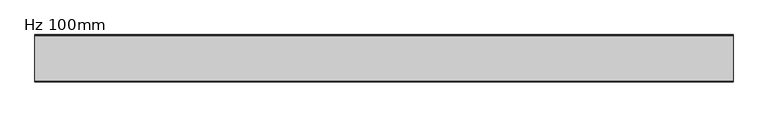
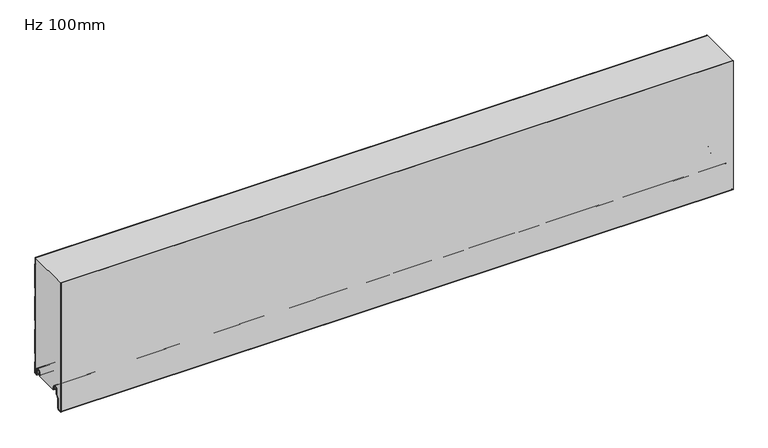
"""IFC4 building model written with IfcOpenShell, lengths in millimetres: plate geometry, KIP-MEX-KSS-1067-R19-CP-Hz-OP_SL : Hz 100mm."""

from ifc_helpers import new_model, si_unit, point, frame, frame_2d, origin, place, context, project, spatial, polyline, circle_curve, trimmed, segment, composite_curve, outline, extrude, source, transform, mapped, element, save
from ifc_brep_helpers import plane_surface, cylinder_surface, revolved_surface, advanced_brep


def hz_100mm_8f397e4b(model_context):
    return source(origin(), model_context, "Body", "SolidModel", [
        advanced_brep(
        [(-740.0, -17.0015159, 2.0313088), (-740.0, -18.0015191, 1.0313116), (-740.0, -19.0015105, 2.0313088), (-740.0, -19.0015105, 6.0315125), (-740.0, -18.0015159, 6.0315125), (-740.0, -18.0015159, 8.7237223), (-740.0, -14.7015202, 12.023718), (-740.0, -10.301529, 12.023718), (-740.0, -7.0015335, 8.7237225), (-740.0, -7.0015335, -1.6962564), (-740.0, -5.2315393, -3.4662506), (-740.0, -0.9999916, -3.4662506), (-740.0, -0.9999916, 21.034026), (-740.0, -2.2002307, 22.4196686), (-740.0, -2.2002307, 41.7948349), (-740.0, -1.0, 43.1804679), (-740.0, -1.0, 97.2338833), (-740.0, -2.2002307, 98.6195162), (-740.0, -2.2002307, 117.9946825), (-740.0, -1.0, 119.3803155), (-740.0, -1.0, 173.4337309), (-740.0, -2.2002307, 174.8193638), (-740.0, -2.2002307, 194.1945301), (-740.0, -1.0, 195.5801631), (-740.0, -1.0, 249.6335785), (-740.0, -2.2002307, 251.0192114), (-740.0, -2.2002307, 266.0), (-740.0, -1.2002307, 266.0), (-740.0, -1.2002307, 251.3920919), (-740.0, -0.3417885, 250.4010442), (-740.0, 0.0, 249.4844273), (-740.0, 0.0, 195.7293142), (-740.0, -0.3417885, 194.8126973), (-740.0, -1.2002307, 193.8216497), (-740.0, -1.2002307, 175.1922443), (-740.0, -0.3417885, 174.2011966), (-740.0, 0.0, 173.2845797), (-740.0, 0.0, 119.5294666), (-740.0, -0.3417885, 118.6128497), (-740.0, -1.2002307, 117.6218021), (-740.0, -1.2002307, 98.9923967), (-740.0, -0.3417885, 98.001349), (-740.0, 0.0, 97.0847321), (-740.0, 0.0, 43.329619), (-740.0, -0.3417885, 42.4130021), (-740.0, -1.2002307, 41.4219545), (-740.0, -1.2002307, 22.7925491), (-740.0, -0.3417885, 21.8015014), (-740.0, 0.0, 20.8847931), (-740.0, 8.4e-06, -3.0662545), (-740.0, -1.3999878, -4.4662506), (-740.0, -5.2315393, -4.4662506), (-740.0, -8.0015335, -1.6962564), (-740.0, -8.0015335, 8.7237225), (-740.0, -10.301529, 11.023718), (-740.0, -14.7015202, 11.023718), (-740.0, -17.0015159, 8.7237223), (740.0, -17.0015159, 2.0313088), (740.0, -17.0015159, 8.7237223), (740.0, -14.7015202, 11.023718), (740.0, -10.301529, 11.023718), (740.0, -8.0015335, 8.7237225), (740.0, -8.0015335, -1.6962564), (740.0, -5.2315393, -4.4662506), (740.0, -1.3999878, -4.4662506), (740.0, 8.4e-06, -3.0662545), (740.0, 8.4e-06, 20.8848845), (740.0, -0.3417885, 21.8015014), (740.0, -1.2002307, 22.7925491), (740.0, -1.2002307, 41.4219545), (740.0, -0.3417885, 42.4130021), (740.0, 0.0, 43.329619), (740.0, 0.0, 97.0847321), (740.0, -0.3417885, 98.001349), (740.0, -1.2002307, 98.9923967), (740.0, -1.2002307, 117.6218021), (740.0, -0.3417885, 118.6128497), (740.0, 0.0, 119.5294666), (740.0, 0.0, 173.2845797), (740.0, -0.3417885, 174.2011966), (740.0, -1.2002307, 175.1922443), (740.0, -1.2002307, 193.8216497), (740.0, -0.3417885, 194.8126973), (740.0, 0.0, 195.7293142), (740.0, 0.0, 249.4844273), (740.0, -0.3417885, 250.4010442), (740.0, -1.2002307, 251.3920919), (740.0, -1.2002307, 266.0), (740.0, -2.2002307, 266.0), (740.0, -2.2002307, 251.0192114), (740.0, -1.0, 249.6335785), (740.0, -1.0, 195.5801631), (740.0, -2.2002307, 194.1945301), (740.0, -2.2002307, 174.8193638), (740.0, -1.0, 173.4337309), (740.0, -1.0, 119.3803155), (740.0, -2.2002307, 117.9946825), (740.0, -2.2002307, 98.6195162), (740.0, -1.0, 97.2338833), (740.0, -1.0, 43.1804679), (740.0, -2.2002307, 41.7948349), (740.0, -2.2002307, 22.4196686), (740.0, -0.9999916, 21.034026), (740.0, -0.9999916, -3.4662506), (740.0, -5.2315393, -3.4662506), (740.0, -7.0015335, -1.6962564), (740.0, -7.0015335, 8.7237225), (740.0, -10.301529, 12.023718), (740.0, -14.7015202, 12.023718), (740.0, -18.0015159, 8.7237223), (740.0, -18.0015159, 6.0315125), (740.0, -19.0015105, 6.0315125), (740.0, -19.0015105, 2.0313088), (740.0, -18.0015192, 1.0313116)],
        [
            (0, 1, circle_curve(frame((-740.0, -18.0015132, 2.0313088), z_axis=(-1.0, 0.0, 0.0), x_axis=(0.0, 0.0, 1.0)), 0.9999973)),
            (1, 2, circle_curve(frame((-740.0, -18.0015133, 2.0313088), z_axis=(-1.0, 0.0, 0.0), x_axis=(0.0, 0.0, 1.0)), 0.9999972)),
            (2, 3),
            (3, 4),
            (4, 5),
            (5, 6, circle_curve(frame((-740.0, -14.7015202, 8.7237223), z_axis=(-1.0, 0.0, 0.0), x_axis=(0.0, 0.0, 1.0)), 3.2999957)),
            (6, 7),
            (7, 8, circle_curve(frame((-740.0, -10.301529, 8.7237225), z_axis=(-1.0, 0.0, 0.0), x_axis=(0.0, 0.0, 1.0)), 3.2999955)),
            (8, 9),
            (9, 10, circle_curve(frame((-740.0, -5.2315393, -1.6962564), z_axis=(1.0, 0.0, 0.0), x_axis=(0.0, 0.0, 1.0)), 1.7699942)),
            (10, 11),
            (11, 12),
            (12, 13),
            (13, 14),
            (14, 15),
            (15, 16),
            (16, 17),
            (17, 18),
            (18, 19),
            (19, 20),
            (20, 21),
            (21, 22),
            (22, 23),
            (23, 24),
            (24, 25),
            (25, 26),
            (26, 27),
            (27, 28),
            (28, 29),
            (29, 30, circle_curve(frame((-740.0, -1.3999972, 249.4844273), z_axis=(-1.0, 0.0, 0.0), x_axis=(0.0, 0.0, 1.0)), 1.3999972)),
            (30, 31),
            (31, 32, circle_curve(frame((-740.0, -1.3999972, 195.7293142), z_axis=(-1.0, 0.0, 0.0), x_axis=(0.0, 0.0, 1.0)), 1.3999972)),
            (32, 33),
            (33, 34),
            (34, 35),
            (35, 36, circle_curve(frame((-740.0, -1.3999972, 173.2845797), z_axis=(-1.0, 0.0, 0.0), x_axis=(0.0, 0.0, 1.0)), 1.3999972)),
            (36, 37),
            (37, 38, circle_curve(frame((-740.0, -1.3999972, 119.5294666), z_axis=(-1.0, 0.0, 0.0), x_axis=(0.0, 0.0, 1.0)), 1.3999972)),
            (38, 39),
            (39, 40),
            (40, 41),
            (41, 42, circle_curve(frame((-740.0, -1.3999972, 97.0847321), z_axis=(-1.0, 0.0, 0.0), x_axis=(0.0, 0.0, 1.0)), 1.3999972)),
            (42, 43),
            (43, 44, circle_curve(frame((-740.0, -1.3999972, 43.329619), z_axis=(-1.0, 0.0, 0.0), x_axis=(0.0, 0.0, 1.0)), 1.3999972)),
            (44, 45),
            (45, 46),
            (46, 47),
            (47, 48, circle_curve(frame((-740.0, -1.3999972, 20.8848845), z_axis=(-1.0, 0.0, 0.0), x_axis=(0.0, 0.0, 1.0)), 1.3999972)),
            (48, 49),
            (49, 50, circle_curve(frame((-740.0, -1.3999878, -3.0662545), z_axis=(-1.0, 0.0, 0.0), x_axis=(0.0, 0.0, 1.0)), 1.3999962)),
            (50, 51),
            (51, 52, circle_curve(frame((-740.0, -5.2315393, -1.6962564), z_axis=(-1.0, 0.0, 0.0), x_axis=(0.0, 0.0, 1.0)), 2.7699942)),
            (52, 53),
            (53, 54, circle_curve(frame((-740.0, -10.301529, 8.7237225), z_axis=(1.0, 0.0, 0.0), x_axis=(0.0, 0.0, 1.0)), 2.2999955)),
            (54, 55),
            (55, 56, circle_curve(frame((-740.0, -14.7015202, 8.7237223), z_axis=(1.0, 0.0, 0.0), x_axis=(0.0, 0.0, 1.0)), 2.2999957)),
            (56, 0),
            (57, 58),
            (58, 59, circle_curve(frame((740.0, -14.7015202, 8.7237223), z_axis=(-1.0, 0.0, 0.0), x_axis=(0.0, 0.0, 1.0)), 2.2999957)),
            (59, 60),
            (60, 61, circle_curve(frame((740.0, -10.301529, 8.7237225), z_axis=(-1.0, 0.0, 0.0), x_axis=(0.0, 0.0, 1.0)), 2.2999955)),
            (61, 62),
            (62, 63, circle_curve(frame((740.0, -5.2315393, -1.6962564), z_axis=(1.0, 0.0, 0.0), x_axis=(0.0, 0.0, 1.0)), 2.7699942)),
            (63, 64),
            (64, 65, circle_curve(frame((740.0, -1.3999878, -3.0662545), z_axis=(1.0, 0.0, 0.0), x_axis=(0.0, 0.0, 1.0)), 1.3999962)),
            (65, 66),
            (66, 67, circle_curve(frame((740.0, -1.3999972, 20.8848845), z_axis=(1.0, 0.0, 0.0), x_axis=(0.0, 0.0, 1.0)), 1.3999972)),
            (67, 68),
            (68, 69),
            (69, 70),
            (70, 71, circle_curve(frame((740.0, -1.3999972, 43.329619), z_axis=(1.0, 0.0, 0.0), x_axis=(0.0, 0.0, 1.0)), 1.3999972)),
            (71, 72),
            (72, 73, circle_curve(frame((740.0, -1.3999972, 97.0847321), z_axis=(1.0, 0.0, 0.0), x_axis=(0.0, 0.0, 1.0)), 1.3999972)),
            (73, 74),
            (74, 75),
            (75, 76),
            (76, 77, circle_curve(frame((740.0, -1.3999972, 119.5294666), z_axis=(1.0, 0.0, 0.0), x_axis=(0.0, 0.0, 1.0)), 1.3999972)),
            (77, 78),
            (78, 79, circle_curve(frame((740.0, -1.3999972, 173.2845797), z_axis=(1.0, 0.0, 0.0), x_axis=(0.0, 0.0, 1.0)), 1.3999972)),
            (79, 80),
            (80, 81),
            (81, 82),
            (82, 83, circle_curve(frame((740.0, -1.3999972, 195.7293142), z_axis=(1.0, 0.0, 0.0), x_axis=(0.0, 0.0, 1.0)), 1.3999972)),
            (83, 84),
            (84, 85, circle_curve(frame((740.0, -1.3999972, 249.4844273), z_axis=(1.0, 0.0, 0.0), x_axis=(0.0, 0.0, 1.0)), 1.3999972)),
            (85, 86),
            (86, 87),
            (87, 88),
            (88, 89),
            (89, 90),
            (90, 91),
            (91, 92),
            (92, 93),
            (93, 94),
            (94, 95),
            (95, 96),
            (96, 97),
            (97, 98),
            (98, 99),
            (99, 100),
            (100, 101),
            (101, 102),
            (102, 103),
            (103, 104),
            (104, 105, circle_curve(frame((740.0, -5.2315393, -1.6962564), z_axis=(-1.0, 0.0, 0.0), x_axis=(0.0, 0.0, 1.0)), 1.7699942)),
            (105, 106),
            (106, 107, circle_curve(frame((740.0, -10.301529, 8.7237225), z_axis=(1.0, 0.0, 0.0), x_axis=(0.0, 0.0, 1.0)), 3.2999955)),
            (107, 108),
            (108, 109, circle_curve(frame((740.0, -14.7015202, 8.7237223), z_axis=(1.0, 0.0, 0.0), x_axis=(0.0, 0.0, 1.0)), 3.2999957)),
            (109, 110),
            (110, 111),
            (111, 112),
            (112, 113, circle_curve(frame((740.0, -18.0015133, 2.0313088), z_axis=(1.0, 0.0, 0.0), x_axis=(0.0, 0.0, 1.0)), 0.9999972)),
            (113, 57, circle_curve(frame((740.0, -18.0015132, 2.0313088), z_axis=(1.0, 0.0, 0.0), x_axis=(0.0, 0.0, 1.0)), 0.9999973)),
            (56, 58),
            (57, 0),
            (55, 59),
            (54, 60),
            (53, 61),
            (52, 62),
            (51, 63),
            (50, 64),
            (49, 65),
            (48, 66),
            (47, 67),
            (46, 68),
            (45, 69),
            (44, 70),
            (43, 71),
            (42, 72),
            (41, 73),
            (40, 74),
            (39, 75),
            (38, 76),
            (37, 77),
            (36, 78),
            (35, 79),
            (34, 80),
            (33, 81),
            (32, 82),
            (31, 83),
            (30, 84),
            (29, 85),
            (28, 86),
            (27, 87),
            (88, 26),
            (25, 89),
            (24, 90),
            (23, 91),
            (22, 92),
            (21, 93),
            (20, 94),
            (19, 95),
            (18, 96),
            (17, 97),
            (16, 98),
            (15, 99),
            (14, 100),
            (13, 101),
            (12, 102),
            (11, 103),
            (10, 104),
            (9, 105),
            (8, 106),
            (7, 107),
            (6, 108),
            (5, 109),
            (4, 110),
            (3, 111),
            (2, 112),
            (1, 113),
        ],
        [
            plane_surface(frame((-740.0, 0.0, 533.4), z_axis=(-1.0, 0.0, 0.0), x_axis=(0.0, 1.0, 0.0))),
            plane_surface(frame((740.0, 0.0, 533.4), z_axis=(1.0, 0.0, 0.0), x_axis=(0.0, 1.0, 0.0))),
            plane_surface(frame((-740.0, -17.0015159, 2.0313088), z_axis=(0.0, 1.0, 0.0), x_axis=(1.0, 0.0, 0.0))),
            revolved_surface(polyline([(740.0, -14.7015202, 11.023718), (-740.0, -14.7015202, 11.023718)]), (-740.0, -14.7015202, 8.7237223), (1.0, 0.0, 0.0)),
            plane_surface(frame((-740.0, -14.7015202, 11.023718), z_axis=(0.0, 0.0, -1.0), x_axis=(1.0, 0.0, 0.0))),
            revolved_surface(polyline([(740.0, -10.301529, 11.023717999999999), (-740.0, -10.301529, 11.023717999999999)]), (-740.0, -10.301529, 8.7237225), (1.0, 0.0, 0.0)),
            plane_surface(frame((-740.0, -8.0015335, 8.7237225), z_axis=(0.0, -1.0, 0.0), x_axis=(1.0, 0.0, 0.0))),
            cylinder_surface(frame((-740.0, -5.2315393, -1.6962564), z_axis=(-1.0, 0.0, 0.0), x_axis=(0.0, 0.0, 1.0)), 2.7699942),
            plane_surface(frame((-740.0, -5.2315393, -4.4662506), z_axis=(0.0, 0.0, -1.0), x_axis=(1.0, 0.0, 0.0))),
            cylinder_surface(frame((-740.0, -1.3999878, -3.0662545), z_axis=(-1.0, 0.0, 0.0), x_axis=(0.0, 0.0, 1.0)), 1.3999962),
            plane_surface(frame((-740.0, 8.4e-06, -3.0662545), z_axis=(0.0, 1.0, 0.0), x_axis=(1.0, 0.0, 0.0))),
            cylinder_surface(frame((-740.0, -1.3999972, 20.8848845), z_axis=(-1.0, 0.0, 0.0), x_axis=(0.0, 0.0, 1.0)), 1.3999972),
            plane_surface(frame((-740.0, -0.3417885, 21.8015014), z_axis=(0.0, 0.755864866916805, 0.6547276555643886), x_axis=(1.0, 0.0, 0.0))),
            plane_surface(frame((-740.0, -1.2002307, 32.1072518), z_axis=(0.0, 1.0, 0.0), x_axis=(1.0, 0.0, 0.0))),
            plane_surface(frame((-740.0, -1.2002307, 41.4219545), z_axis=(0.0, 0.755864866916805, -0.6547276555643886), x_axis=(1.0, 0.0, 0.0))),
            cylinder_surface(frame((-740.0, -1.3999972, 43.329619), z_axis=(-1.0, 0.0, 0.0), x_axis=(0.0, 0.0, 1.0)), 1.3999972),
            plane_surface(frame((-740.0, 0.0, 43.329619), z_axis=(0.0, 1.0, 0.0), x_axis=(1.0, 0.0, 0.0))),
            cylinder_surface(frame((-740.0, -1.3999972, 97.0847321), z_axis=(-1.0, 0.0, 0.0), x_axis=(0.0, 0.0, 1.0)), 1.3999972),
            plane_surface(frame((-740.0, -0.3417885, 98.001349), z_axis=(0.0, 0.755864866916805, 0.6547276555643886), x_axis=(1.0, 0.0, 0.0))),
            plane_surface(frame((-740.0, -1.2002307, 108.3070994), z_axis=(0.0, 1.0, 0.0), x_axis=(1.0, 0.0, 0.0))),
            plane_surface(frame((-740.0, -1.2002307, 117.6218021), z_axis=(0.0, 0.755864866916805, -0.6547276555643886), x_axis=(1.0, 0.0, 0.0))),
            cylinder_surface(frame((-740.0, -1.3999972, 119.5294666), z_axis=(-1.0, 0.0, 0.0), x_axis=(0.0, 0.0, 1.0)), 1.3999972),
            plane_surface(frame((-740.0, 0.0, 119.5294666), z_axis=(0.0, 1.0, 0.0), x_axis=(1.0, 0.0, 0.0))),
            cylinder_surface(frame((-740.0, -1.3999972, 173.2845797), z_axis=(-1.0, 0.0, 0.0), x_axis=(0.0, 0.0, 1.0)), 1.3999972),
            plane_surface(frame((-740.0, -0.3417885, 174.2011966), z_axis=(0.0, 0.755864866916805, 0.6547276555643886), x_axis=(1.0, 0.0, 0.0))),
            plane_surface(frame((-740.0, -1.2002307, 184.506947), z_axis=(0.0, 1.0, 0.0), x_axis=(1.0, 0.0, 0.0))),
            plane_surface(frame((-740.0, -1.2002307, 193.8216497), z_axis=(0.0, 0.755864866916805, -0.6547276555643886), x_axis=(1.0, 0.0, 0.0))),
            cylinder_surface(frame((-740.0, -1.3999972, 195.7293142), z_axis=(-1.0, 0.0, 0.0), x_axis=(0.0, 0.0, 1.0)), 1.3999972),
            plane_surface(frame((-740.0, 0.0, 195.7293142), z_axis=(0.0, 1.0, 0.0), x_axis=(1.0, 0.0, 0.0))),
            cylinder_surface(frame((-740.0, -1.3999972, 249.4844273), z_axis=(-1.0, 0.0, 0.0), x_axis=(0.0, 0.0, 1.0)), 1.3999972),
            plane_surface(frame((-740.0, -0.3417885, 250.4010442), z_axis=(0.0, 0.755864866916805, 0.6547276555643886), x_axis=(1.0, 0.0, 0.0))),
            plane_surface(frame((-740.0, -1.2002307, 260.7067946), z_axis=(0.0, 1.0, 0.0), x_axis=(1.0, 0.0, 0.0))),
            plane_surface(frame((-740.0, -2.2002307, 270.3943777), z_axis=(0.0, -1.0, 0.0), x_axis=(1.0, 0.0, 0.0))),
            plane_surface(frame((-740.0, -2.2002307, 251.0192114), z_axis=(0.0, -0.755864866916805, -0.6547276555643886), x_axis=(1.0, 0.0, 0.0))),
            plane_surface(frame((-740.0, -1.0, 249.6335785), z_axis=(0.0, -1.0, 0.0), x_axis=(1.0, 0.0, 0.0))),
            plane_surface(frame((-740.0, -1.0, 195.5801631), z_axis=(0.0, -0.755864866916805, 0.6547276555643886), x_axis=(1.0, 0.0, 0.0))),
            plane_surface(frame((-740.0, -2.2002307, 194.1945301), z_axis=(0.0, -1.0, 0.0), x_axis=(1.0, 0.0, 0.0))),
            plane_surface(frame((-740.0, -2.2002307, 174.8193638), z_axis=(0.0, -0.755864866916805, -0.6547276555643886), x_axis=(1.0, 0.0, 0.0))),
            plane_surface(frame((-740.0, -1.0, 173.4337309), z_axis=(0.0, -1.0, 0.0), x_axis=(1.0, 0.0, 0.0))),
            plane_surface(frame((-740.0, -1.0, 119.3803155), z_axis=(0.0, -0.755864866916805, 0.6547276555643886), x_axis=(1.0, 0.0, 0.0))),
            plane_surface(frame((-740.0, -2.2002307, 117.9946825), z_axis=(0.0, -1.0, 0.0), x_axis=(1.0, 0.0, 0.0))),
            plane_surface(frame((-740.0, -2.2002307, 98.6195162), z_axis=(0.0, -0.755864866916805, -0.6547276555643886), x_axis=(1.0, 0.0, 0.0))),
            plane_surface(frame((-740.0, -1.0, 97.2338833), z_axis=(0.0, -1.0, 0.0), x_axis=(1.0, 0.0, 0.0))),
            plane_surface(frame((-740.0, -1.0, 43.1804679), z_axis=(0.0, -0.755864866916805, 0.6547276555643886), x_axis=(1.0, 0.0, 0.0))),
            plane_surface(frame((-740.0, -2.2002307, 41.7948349), z_axis=(0.0, -1.0, 0.0), x_axis=(1.0, 0.0, 0.0))),
            plane_surface(frame((-740.0, -2.2002307, 22.4196686), z_axis=(0.0, -0.755864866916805, -0.6547276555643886), x_axis=(1.0, 0.0, 0.0))),
            plane_surface(frame((-740.0, -0.9999916, 21.034026), z_axis=(0.0, -1.0, 0.0), x_axis=(1.0, 0.0, 0.0))),
            plane_surface(frame((-740.0, -0.9999916, -3.4662506), z_axis=(0.0, 0.0, 1.0), x_axis=(1.0, 0.0, 0.0))),
            revolved_surface(polyline([(740.0, -5.2315393, 0.07373779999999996), (-740.0, -5.2315393, 0.07373779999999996)]), (-740.0, -5.2315393, -1.6962564), (1.0, 0.0, 0.0)),
            plane_surface(frame((-740.0, -7.0015335, -1.6962564), z_axis=(0.0, 1.0, 0.0), x_axis=(1.0, 0.0, 0.0))),
            cylinder_surface(frame((-740.0, -10.301529, 8.7237225), z_axis=(-1.0, 0.0, 0.0), x_axis=(0.0, 0.0, 1.0)), 3.2999955),
            plane_surface(frame((-740.0, -10.301529, 12.023718), z_axis=(0.0, 0.0, 1.0), x_axis=(1.0, 0.0, 0.0))),
            cylinder_surface(frame((-740.0, -14.7015202, 8.7237223), z_axis=(-1.0, 0.0, 0.0), x_axis=(0.0, 0.0, 1.0)), 3.2999957),
            plane_surface(frame((-740.0, -18.0015159, 8.7237223), z_axis=(0.0, -1.0, 0.0), x_axis=(1.0, 0.0, 0.0))),
            plane_surface(frame((-740.0, -18.0015159, 6.0315125), z_axis=(0.0, 0.0, 1.0), x_axis=(1.0, 0.0, 0.0))),
            plane_surface(frame((-740.0, -19.0015105, 6.0315125), z_axis=(0.0, -1.0, 0.0), x_axis=(1.0, 0.0, 0.0))),
            cylinder_surface(frame((-740.0, -18.0015133, 2.0313088), z_axis=(-1.0, 0.0, 0.0), x_axis=(0.0, 0.0, 1.0)), 0.9999972),
            cylinder_surface(frame((-740.0, -18.0015132, 2.0313088), z_axis=(-1.0, 0.0, 0.0), x_axis=(0.0, 0.0, 1.0)), 0.9999973),
            plane_surface(frame((740.0, 10.0, 266.0), z_axis=(0.0, 0.0, 1.0), x_axis=(-1.0, 0.0, 0.0))),
        ],
        [
            (0, [[1, 2, 3, 4, 5, 6, 7, 8, 9, 10, 11, 12, 13, 14, 15, 16, 17, 18, 19, 20, 21, 22, 23, 24, 25, 26, 27, 28, 29, 30, 31, 32, 33, 34, 35, 36, 37, 38, 39, 40, 41, 42, 43, 44, 45, 46, 47, 48, 49, 50, 51, 52, 53, 54, 55, 56, 57]]),
            (1, [[58, 59, 60, 61, 62, 63, 64, 65, 66, 67, 68, 69, 70, 71, 72, 73, 74, 75, 76, 77, 78, 79, 80, 81, 82, 83, 84, 85, 86, 87, 88, 89, 90, 91, 92, 93, 94, 95, 96, 97, 98, 99, 100, 101, 102, 103, 104, 105, 106, 107, 108, 109, 110, 111, 112, 113, 114]]),
            (2, [[115, -58, 116, -57]]),
            (3, [[117, -59, -115, -56]]),
            (4, [[118, -60, -117, -55]]),
            (5, [[119, -61, -118, -54]]),
            (6, [[120, -62, -119, -53]]),
            (7, [[121, -63, -120, -52]]),
            (8, [[122, -64, -121, -51]]),
            (9, [[123, -65, -122, -50]]),
            (10, [[124, -66, -123, -49]]),
            (11, [[125, -67, -124, -48]]),
            (12, [[126, -68, -125, -47]]),
            (13, [[127, -69, -126, -46]]),
            (14, [[128, -70, -127, -45]]),
            (15, [[129, -71, -128, -44]]),
            (16, [[130, -72, -129, -43]]),
            (17, [[131, -73, -130, -42]]),
            (18, [[132, -74, -131, -41]]),
            (19, [[133, -75, -132, -40]]),
            (20, [[134, -76, -133, -39]]),
            (21, [[135, -77, -134, -38]]),
            (22, [[136, -78, -135, -37]]),
            (23, [[137, -79, -136, -36]]),
            (24, [[138, -80, -137, -35]]),
            (25, [[139, -81, -138, -34]]),
            (26, [[140, -82, -139, -33]]),
            (27, [[141, -83, -140, -32]]),
            (28, [[142, -84, -141, -31]]),
            (29, [[143, -85, -142, -30]]),
            (30, [[144, -86, -143, -29]]),
            (31, [[-28, 145, -87, -144]]),
            (32, [[-89, 146, -26, 147]]),
            (33, [[148, -90, -147, -25]]),
            (34, [[149, -91, -148, -24]]),
            (35, [[150, -92, -149, -23]]),
            (36, [[151, -93, -150, -22]]),
            (37, [[152, -94, -151, -21]]),
            (38, [[153, -95, -152, -20]]),
            (39, [[154, -96, -153, -19]]),
            (40, [[155, -97, -154, -18]]),
            (41, [[156, -98, -155, -17]]),
            (42, [[157, -99, -156, -16]]),
            (43, [[158, -100, -157, -15]]),
            (44, [[159, -101, -158, -14]]),
            (45, [[160, -102, -159, -13]]),
            (46, [[161, -103, -160, -12]]),
            (47, [[162, -104, -161, -11]]),
            (48, [[163, -105, -162, -10]]),
            (49, [[164, -106, -163, -9]]),
            (50, [[165, -107, -164, -8]]),
            (51, [[166, -108, -165, -7]]),
            (52, [[167, -109, -166, -6]]),
            (53, [[168, -110, -167, -5]]),
            (54, [[169, -111, -168, -4]]),
            (55, [[170, -112, -169, -3]]),
            (56, [[171, -113, -170, -2]]),
            (57, [[-116, -114, -171, -1]]),
            (58, [[-146, -88, -145, -27]]),
        ],
    ),
        extrude(outline(composite_curve([segment(trimmed(circle_curve(frame_2d((-96.4297607, -32.4521176)), 3.5702393), [point((-96.1184903, -36.008762))], [point((-100.0, -32.4521176))], False, "CARTESIAN"), True, "CONTINUOUS"), segment(polyline([(-100.0, -32.4521176), (-100.0, 266.0), (-98.9993606, 266.0), (-98.9993606, -32.509446)]), True, "CONTINUOUS"), segment(trimmed(circle_curve(frame_2d((-96.4297607, -32.4521176)), 2.5702393), [point((-98.9993606, -32.509446))], [point((-96.2056751, -35.0125699))], True, "CARTESIAN"), True, "CONTINUOUS"), segment(polyline([(-96.2056751, -35.0125699), (-91.2238542, -34.5765709)]), True, "CONTINUOUS"), segment(trimmed(circle_curve(frame_2d((-91.7052448, -31.9198392)), 2.6999926), [point((-91.2238542, -34.5765709))], [point((-89.0052522, -31.9198392))], True, "CARTESIAN"), True, "CONTINUOUS"), segment(polyline([(-89.0052522, -31.9198392), (-89.0052522, -9.8247096), (-83.5031811, -4.3226385)]), True, "CONTINUOUS"), segment(trimmed(circle_curve(frame_2d((-84.7052588, -3.1205608)), 1.6999946), [point((-83.5031811, -4.3226385))], [point((-83.0052642, -3.1205608))], True, "CARTESIAN"), True, "CONTINUOUS"), segment(polyline([(-83.0052642, -3.1205608), (-83.0052642, 8.6903283)]), True, "CONTINUOUS"), segment(trimmed(circle_curve(frame_2d((-79.6552689, 8.6903283)), 3.3499953), [point((-83.0052642, 8.6903283))], [point((-79.6552689, 12.0403236))], False, "CARTESIAN"), True, "CONTINUOUS"), segment(polyline([(-79.6552689, 12.0403236), (-75.2552777, 12.0403236)]), True, "CONTINUOUS"), segment(trimmed(circle_curve(frame_2d((-75.2552777, 8.6903283)), 3.3499953), [point((-75.2552777, 12.0403236))], [point((-71.9052824, 8.6903283))], False, "CARTESIAN"), True, "CONTINUOUS"), segment(polyline([(-71.9052824, 8.6903283), (-71.9052824, 5.9912173), (-70.5068035, 5.9912173), (-70.5068035, 2.2328239)]), True, "CONTINUOUS"), segment(trimmed(circle_curve(frame_2d((-71.7068002, 2.2313092)), 1.1999976), [point((-70.5068035, 2.2328239))], [point((-71.6762782, 1.0316999))], False, "CARTESIAN"), True, "CONTINUOUS"), segment(trimmed(circle_curve(frame_2d((-71.7068002, 2.2313092)), 1.1999976), [point((-71.6762782, 1.0316999))], [point((-72.9052824, 2.1710221))], False, "CARTESIAN"), True, "CONTINUOUS"), segment(polyline([(-72.9052824, 2.1710221), (-72.9052824, 8.6903283)]), True, "CONTINUOUS"), segment(trimmed(circle_curve(frame_2d((-75.2552777, 8.6903283)), 2.3499953), [point((-72.9052824, 8.6903283))], [point((-75.2552777, 11.0403236))], True, "CARTESIAN"), True, "CONTINUOUS"), segment(polyline([(-75.2552777, 11.0403236), (-79.6552689, 11.0403236)]), True, "CONTINUOUS"), segment(trimmed(circle_curve(frame_2d((-79.6552689, 8.6903283)), 2.3499953), [point((-79.6552689, 11.0403236))], [point((-82.0052642, 8.6903283))], True, "CARTESIAN"), True, "CONTINUOUS"), segment(polyline([(-82.0052642, 8.6903283), (-82.0052642, -3.1205608)]), True, "CONTINUOUS"), segment(trimmed(circle_curve(frame_2d((-84.7052588, -3.1205608)), 2.6999946), [point((-82.0052642, -3.1205608))], [point((-82.7960743, -5.0297453))], False, "CARTESIAN"), True, "CONTINUOUS"), segment(polyline([(-82.7960743, -5.0297453), (-87.6244918, -9.8581627)]), True, "CONTINUOUS"), segment(trimmed(circle_curve(frame_2d((-86.7052548, -10.7773997)), 1.2999974), [point((-87.6244918, -9.8581627))], [point((-88.0052522, -10.7773997))], True, "CARTESIAN"), True, "CONTINUOUS"), segment(polyline([(-88.0052522, -10.7773997), (-88.0052522, -31.9198392)]), True, "CONTINUOUS"), segment(trimmed(circle_curve(frame_2d((-91.7052448, -31.9198392)), 3.6999926), [point((-88.0052522, -31.9198392))], [point((-91.0944437, -35.5690675))], False, "CARTESIAN"), True, "CONTINUOUS"), segment(polyline([(-91.0944437, -35.5690675), (-96.1184903, -36.008762)]), True, "CONTINUOUS")], self_intersect=False)), frame((-740.0, 0.0, 0.0), z_axis=(1.0, 0.0, 0.0), x_axis=(0.0, 1.0, 0.0)), (0.0, 0.0, 1.0), 1480.0),
        advanced_brep(
        [(-740.0, -71.670875, 1.0316999), (-740.0, -70.5014003, 2.2328239), (-740.0, -70.5014003, 5.9912173), (-740.0, -71.8998791, 5.9912173), (-740.0, -71.8998791, 8.6903283), (-740.0, -75.2498744, 12.0403236), (-740.0, -79.6498656, 12.0403236), (-740.0, -82.9998609, 8.6903283), (-740.0, -82.9998609, -3.1205608), (-740.0, -83.4977778, -4.3226385), (-740.0, -88.9998489, -9.8247096), (-740.0, -88.9998489, -31.9198392), (-740.0, -91.2184509, -34.5765709), (-740.0, -96.2002718, -35.0125699), (-740.0, -98.9945967, -32.4521176), (-740.0, -99.0, 266.0), (-740.0, -2.2002307, 266.0), (-740.0, -2.2002307, 251.0192115), (-740.0, -1.0, 249.6335785), (-740.0, -1.0, 195.5801631), (-740.0, -2.2002307, 194.1945302), (-740.0, -2.2002307, 174.8193639), (-740.0, -1.0, 173.4337309), (-740.0, -1.0, 119.3803155), (-740.0, -2.2002307, 117.9946826), (-740.0, -2.2002307, 98.6195163), (-740.0, -1.0, 97.2338833), (-740.0, -1.0, 43.1804679), (-740.0, -2.2002307, 41.794835), (-740.0, -2.2002307, 22.4196687), (-740.0, -0.9999916, 21.034026), (-740.0, -0.9999916, -3.4662506), (-740.0, -5.2315389, -3.4662506), (-740.0, -7.0015331, -1.6962564), (-740.0, -7.0015331, 8.7237222), (-740.0, -10.301529, 12.023718), (-740.0, -14.7015202, 12.023718), (-740.0, -18.0015159, 8.7237223), (-740.0, -18.0015159, 6.0315125), (-740.0, -19.0015105, 6.0315125), (-740.0, -19.0015105, 2.0313089), (-740.0, -18.0015192, 1.0313117), (-740.0, -19.0328308, 0.0), (-740.0, -70.6391751, 0.0), (740.0, -71.670875, 1.0316999), (740.0, -70.6391751, 0.0), (740.0, -19.0328308, 0.0), (740.0, -18.0015192, 1.0313117), (740.0, -19.0015105, 2.0313089), (740.0, -19.0015105, 6.0315125), (740.0, -18.0015159, 6.0315125), (740.0, -18.0015159, 8.7237223), (740.0, -14.7015202, 12.023718), (740.0, -10.301529, 12.023718), (740.0, -7.0015331, 8.7237222), (740.0, -7.0015331, -1.6962564), (740.0, -5.2315389, -3.4662506), (740.0, -0.9999916, -3.4662506), (740.0, -0.9999916, 21.034026), (740.0, -2.2002307, 22.4196687), (740.0, -2.2002307, 41.794835), (740.0, -1.0, 43.1804679), (740.0, -1.0, 97.2338833), (740.0, -2.2002307, 98.6195163), (740.0, -2.2002307, 117.9946826), (740.0, -1.0, 119.3803155), (740.0, -1.0, 173.4337309), (740.0, -2.2002307, 174.8193639), (740.0, -2.2002307, 194.1945302), (740.0, -1.0, 195.5801631), (740.0, -1.0, 249.6335785), (740.0, -2.2002307, 251.0192115), (740.0, -2.2002307, 266.0), (740.0, -99.0, 266.0), (740.0, -99.0, -32.4521176), (740.0, -96.2002718, -35.0125699), (740.0, -91.2184509, -34.5765709), (740.0, -88.9998489, -31.9198392), (740.0, -88.9998489, -9.8247096), (740.0, -83.4977778, -4.3226385), (740.0, -82.9998609, -3.1205608), (740.0, -82.9998609, 8.6903283), (740.0, -79.6498656, 12.0403236), (740.0, -75.2498744, 12.0403236), (740.0, -71.8998791, 8.6903283), (740.0, -71.8998791, 5.9912173), (740.0, -70.5014003, 5.9912173), (740.0, -70.5014003, 2.2328239)],
        [
            (0, 1, circle_curve(frame((-740.0, -71.7013969, 2.2313092), z_axis=(1.0, 0.0, 0.0), x_axis=(0.0, 0.0, -1.0)), 1.1999976)),
            (1, 2),
            (2, 3),
            (3, 4),
            (4, 5, circle_curve(frame((-740.0, -75.2498744, 8.6903283), z_axis=(1.0, 0.0, 0.0), x_axis=(0.0, 0.0, -1.0)), 3.3499953)),
            (5, 6),
            (6, 7, circle_curve(frame((-740.0, -79.6498656, 8.6903283), z_axis=(1.0, 0.0, 0.0), x_axis=(0.0, 0.0, -1.0)), 3.3499953)),
            (7, 8),
            (8, 9, circle_curve(frame((-740.0, -84.6998555, -3.1205608), z_axis=(-1.0, 0.0, 0.0), x_axis=(0.0, 0.0, -1.0)), 1.6999946)),
            (9, 10),
            (10, 11),
            (11, 12, circle_curve(frame((-740.0, -91.6998415, -31.9198392), z_axis=(-1.0, 0.0, 0.0), x_axis=(0.0, 0.0, -1.0)), 2.6999926)),
            (12, 13),
            (13, 14, circle_curve(frame((-740.0, -96.4243575, -32.4521176), z_axis=(-1.0, 0.0, 0.0), x_axis=(0.0, 0.0, -1.0)), 2.5702393)),
            (14, 15),
            (15, 16),
            (16, 17),
            (17, 18),
            (18, 19),
            (19, 20),
            (20, 21),
            (21, 22),
            (22, 23),
            (23, 24),
            (24, 25),
            (25, 26),
            (26, 27),
            (27, 28),
            (28, 29),
            (29, 30),
            (30, 31),
            (31, 32),
            (32, 33, circle_curve(frame((-740.0, -5.2315389, -1.6962564), z_axis=(-1.0, 0.0, 0.0), x_axis=(0.0, 0.0, -1.0)), 1.7699942)),
            (33, 34),
            (34, 35, circle_curve(frame((-740.0, -10.301529, 8.7237222), z_axis=(1.0, 0.0, 0.0), x_axis=(0.0, 0.0, -1.0)), 3.2999959)),
            (35, 36),
            (36, 37, circle_curve(frame((-740.0, -14.7015202, 8.7237223), z_axis=(1.0, 0.0, 0.0), x_axis=(0.0, 0.0, -1.0)), 3.2999957)),
            (37, 38),
            (38, 39),
            (39, 40),
            (40, 41, circle_curve(frame((-740.0, -18.0015133, 2.0313089), z_axis=(1.0, 0.0, 0.0), x_axis=(0.0, 0.0, -1.0)), 0.9999972)),
            (41, 42),
            (42, 43),
            (43, 0),
            (44, 45),
            (45, 46),
            (46, 47),
            (47, 48, circle_curve(frame((740.0, -18.0015133, 2.0313089), z_axis=(-1.0, 0.0, 0.0), x_axis=(0.0, 0.0, -1.0)), 0.9999972)),
            (48, 49),
            (49, 50),
            (50, 51),
            (51, 52, circle_curve(frame((740.0, -14.7015202, 8.7237223), z_axis=(-1.0, 0.0, 0.0), x_axis=(0.0, 0.0, -1.0)), 3.2999957)),
            (52, 53),
            (53, 54, circle_curve(frame((740.0, -10.301529, 8.7237222), z_axis=(-1.0, 0.0, 0.0), x_axis=(0.0, 0.0, -1.0)), 3.2999959)),
            (54, 55),
            (55, 56, circle_curve(frame((740.0, -5.2315389, -1.6962564), z_axis=(1.0, 0.0, 0.0), x_axis=(0.0, 0.0, -1.0)), 1.7699942)),
            (56, 57),
            (57, 58),
            (58, 59),
            (59, 60),
            (60, 61),
            (61, 62),
            (62, 63),
            (63, 64),
            (64, 65),
            (65, 66),
            (66, 67),
            (67, 68),
            (68, 69),
            (69, 70),
            (70, 71),
            (71, 72),
            (72, 73),
            (73, 74),
            (74, 75, circle_curve(frame((740.0, -96.4243575, -32.4521176), z_axis=(1.0, 0.0, 0.0), x_axis=(0.0, 0.0, -1.0)), 2.5702393)),
            (75, 76),
            (76, 77, circle_curve(frame((740.0, -91.6998415, -31.9198392), z_axis=(1.0, 0.0, 0.0), x_axis=(0.0, 0.0, -1.0)), 2.6999926)),
            (77, 78),
            (78, 79),
            (79, 80, circle_curve(frame((740.0, -84.6998555, -3.1205608), z_axis=(1.0, 0.0, 0.0), x_axis=(0.0, 0.0, -1.0)), 1.6999946)),
            (80, 81),
            (81, 82, circle_curve(frame((740.0, -79.6498656, 8.6903283), z_axis=(-1.0, 0.0, 0.0), x_axis=(0.0, 0.0, -1.0)), 3.3499953)),
            (82, 83),
            (83, 84, circle_curve(frame((740.0, -75.2498744, 8.6903283), z_axis=(-1.0, 0.0, 0.0), x_axis=(0.0, 0.0, -1.0)), 3.3499953)),
            (84, 85),
            (85, 86),
            (86, 87),
            (87, 44, circle_curve(frame((740.0, -71.7013969, 2.2313092), z_axis=(-1.0, 0.0, 0.0), x_axis=(0.0, 0.0, -1.0)), 1.1999976)),
            (41, 47),
            (46, 42),
            (40, 48),
            (39, 49),
            (38, 50),
            (37, 51),
            (36, 52),
            (35, 53),
            (34, 54),
            (33, 55),
            (32, 56),
            (31, 57),
            (30, 58),
            (29, 59),
            (28, 60),
            (27, 61),
            (26, 62),
            (25, 63),
            (24, 64),
            (23, 65),
            (22, 66),
            (21, 67),
            (20, 68),
            (19, 69),
            (18, 70),
            (17, 71),
            (16, 72),
            (15, 73),
            (43, 45),
            (44, 0),
            (14, 74),
            (13, 75),
            (12, 76),
            (11, 77),
            (10, 78),
            (9, 79),
            (8, 80),
            (7, 81),
            (6, 82),
            (5, 83),
            (4, 84),
            (3, 85),
            (2, 86),
            (1, 87),
        ],
        [
            plane_surface(frame((-740.0, -99.0, 533.4), z_axis=(-1.0, 0.0, 0.0), x_axis=(0.0, -1.0, 0.0))),
            plane_surface(frame((740.0, -99.0, 533.4), z_axis=(1.0, 0.0, 0.0), x_axis=(0.0, -1.0, 0.0))),
            plane_surface(frame((-740.0, -19.0328308, 0.0), z_axis=(0.0, 0.7071067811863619, -0.7071067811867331), x_axis=(1.0, 0.0, 0.0))),
            revolved_surface(polyline([(740.0, -18.0015133, 1.0313116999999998), (-740.0, -18.0015133, 1.0313116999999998)]), (-740.0, -18.0015133, 2.0313089), (1.0, 0.0, 0.0)),
            plane_surface(frame((-740.0, -19.0015105, 2.0313089), z_axis=(0.0, 1.0, 0.0), x_axis=(1.0, 0.0, 0.0))),
            plane_surface(frame((-740.0, -19.0015105, 6.0315125), z_axis=(0.0, 0.0, -1.0), x_axis=(1.0, 0.0, 0.0))),
            plane_surface(frame((-740.0, -18.0015159, 6.0315125), z_axis=(0.0, 1.0, 0.0), x_axis=(1.0, 0.0, 0.0))),
            revolved_surface(polyline([(740.0, -14.7015202, 5.4237266), (-740.0, -14.7015202, 5.4237266)]), (-740.0, -14.7015202, 8.7237223), (1.0, 0.0, 0.0)),
            plane_surface(frame((-740.0, -14.7015202, 12.023718), z_axis=(0.0, 0.0, -1.0), x_axis=(1.0, 0.0, 0.0))),
            revolved_surface(polyline([(740.0, -10.301529, 5.423726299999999), (-740.0, -10.301529, 5.423726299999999)]), (-740.0, -10.301529, 8.7237222), (1.0, 0.0, 0.0)),
            plane_surface(frame((-740.0, -7.0015331, 8.7237222), z_axis=(0.0, -1.0, 0.0), x_axis=(1.0, 0.0, 0.0))),
            cylinder_surface(frame((-740.0, -5.2315389, -1.6962564), z_axis=(-1.0, 0.0, 0.0), x_axis=(0.0, 0.0, -1.0)), 1.7699942),
            plane_surface(frame((-740.0, -5.2315389, -3.4662506), z_axis=(0.0, 0.0, -1.0), x_axis=(1.0, 0.0, 0.0))),
            plane_surface(frame((-740.0, -0.9999916, -3.4662506), z_axis=(0.0, 1.0, 0.0), x_axis=(1.0, 0.0, 0.0))),
            plane_surface(frame((-740.0, -0.9999916, 21.034026), z_axis=(0.0, 0.7558648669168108, 0.6547276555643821), x_axis=(1.0, 0.0, 0.0))),
            plane_surface(frame((-740.0, -2.2002307, 22.4196687), z_axis=(0.0, 1.0, 0.0), x_axis=(1.0, 0.0, 0.0))),
            plane_surface(frame((-740.0, -2.2002307, 41.794835), z_axis=(0.0, 0.7558648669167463, -0.6547276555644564), x_axis=(1.0, 0.0, 0.0))),
            plane_surface(frame((-740.0, -1.0, 43.1804679), z_axis=(0.0, 1.0, 0.0), x_axis=(1.0, 0.0, 0.0))),
            plane_surface(frame((-740.0, -1.0, 97.2338833), z_axis=(0.0, 0.7558648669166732, 0.6547276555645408), x_axis=(1.0, 0.0, 0.0))),
            plane_surface(frame((-740.0, -2.2002307, 98.6195163), z_axis=(0.0, 1.0, 0.0), x_axis=(1.0, 0.0, 0.0))),
            plane_surface(frame((-740.0, -2.2002307, 117.9946826), z_axis=(0.0, 0.7558648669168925, -0.6547276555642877), x_axis=(1.0, 0.0, 0.0))),
            plane_surface(frame((-740.0, -1.0, 119.3803155), z_axis=(0.0, 1.0, 0.0), x_axis=(1.0, 0.0, 0.0))),
            plane_surface(frame((-740.0, -1.0, 173.4337309), z_axis=(0.0, 0.7558648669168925, 0.6547276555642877), x_axis=(1.0, 0.0, 0.0))),
            plane_surface(frame((-740.0, -2.2002307, 174.8193639), z_axis=(0.0, 1.0, 0.0), x_axis=(1.0, 0.0, 0.0))),
            plane_surface(frame((-740.0, -2.2002307, 194.1945302), z_axis=(0.0, 0.7558648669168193, -0.6547276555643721), x_axis=(1.0, 0.0, 0.0))),
            plane_surface(frame((-740.0, -1.0, 195.5801631), z_axis=(0.0, 1.0, 0.0), x_axis=(1.0, 0.0, 0.0))),
            plane_surface(frame((-740.0, -1.0, 249.6335785), z_axis=(0.0, 0.7558648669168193, 0.6547276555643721), x_axis=(1.0, 0.0, 0.0))),
            plane_surface(frame((-740.0, -2.2002307, 251.0192115), z_axis=(0.0, 1.0, 0.0), x_axis=(1.0, 0.0, 0.0))),
            plane_surface(frame((740.0, 10.0, 266.0), z_axis=(0.0, 0.0, 1.0), x_axis=(-1.0, 0.0, 0.0))),
            plane_surface(frame((-740.0, -71.670875, 1.0316999), z_axis=(0.0, -0.7071067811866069, -0.7071067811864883), x_axis=(1.0, 0.0, 0.0))),
            plane_surface(frame((-740.0, -99.0, 1024.665622), z_axis=(0.0, -1.0, 0.0), x_axis=(1.0, 0.0, 0.0))),
            cylinder_surface(frame((-740.0, -96.4243575, -32.4521176), z_axis=(-1.0, 0.0, 0.0), x_axis=(0.0, 0.0, -1.0)), 2.5702393),
            plane_surface(frame((-740.0, -70.6391751, 0.0), z_axis=(0.0, 0.0, -1.0), x_axis=(1.0, 0.0, 0.0))),
            plane_surface(frame((-740.0, -96.2002718, -35.0125699), z_axis=(0.0, 0.08718474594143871, -0.9961921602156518), x_axis=(1.0, 0.0, 0.0))),
            cylinder_surface(frame((-740.0, -91.6998415, -31.9198392), z_axis=(-1.0, 0.0, 0.0), x_axis=(0.0, 0.0, -1.0)), 2.6999926),
            plane_surface(frame((-740.0, -88.9998489, -31.9198392), z_axis=(0.0, 1.0, 0.0), x_axis=(1.0, 0.0, 0.0))),
            plane_surface(frame((-740.0, -88.9998489, -9.8247096), z_axis=(0.0, 0.7071067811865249, -0.7071067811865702), x_axis=(1.0, 0.0, 0.0))),
            cylinder_surface(frame((-740.0, -84.6998555, -3.1205608), z_axis=(-1.0, 0.0, 0.0), x_axis=(0.0, 0.0, -1.0)), 1.6999946),
            plane_surface(frame((-740.0, -82.9998609, -3.1205608), z_axis=(0.0, 1.0, 0.0), x_axis=(1.0, 0.0, 0.0))),
            revolved_surface(polyline([(740.0, -79.6498656, 5.340332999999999), (-740.0, -79.6498656, 5.340332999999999)]), (-740.0, -79.6498656, 8.6903283), (1.0, 0.0, 0.0)),
            plane_surface(frame((-740.0, -79.6498656, 12.0403236), z_axis=(0.0, 0.0, -1.0), x_axis=(1.0, 0.0, 0.0))),
            revolved_surface(polyline([(740.0, -75.2498744, 5.340332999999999), (-740.0, -75.2498744, 5.340332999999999)]), (-740.0, -75.2498744, 8.6903283), (1.0, 0.0, 0.0)),
            plane_surface(frame((-740.0, -71.8998791, 8.6903283), z_axis=(0.0, -1.0, 0.0), x_axis=(1.0, 0.0, 0.0))),
            plane_surface(frame((-740.0, -71.8998791, 5.9912173), z_axis=(0.0, 0.0, -1.0), x_axis=(1.0, 0.0, 0.0))),
            plane_surface(frame((-740.0, -70.5014003, 5.9912173), z_axis=(0.0, -1.0, 0.0), x_axis=(1.0, 0.0, 0.0))),
            revolved_surface(polyline([(740.0, -71.7013969, 1.0313116), (-740.0, -71.7013969, 1.0313116)]), (-740.0, -71.7013969, 2.2313092), (1.0, 0.0, 0.0)),
        ],
        [
            (0, [[1, 2, 3, 4, 5, 6, 7, 8, 9, 10, 11, 12, 13, 14, 15, 16, 17, 18, 19, 20, 21, 22, 23, 24, 25, 26, 27, 28, 29, 30, 31, 32, 33, 34, 35, 36, 37, 38, 39, 40, 41, 42, 43, 44]]),
            (1, [[45, 46, 47, 48, 49, 50, 51, 52, 53, 54, 55, 56, 57, 58, 59, 60, 61, 62, 63, 64, 65, 66, 67, 68, 69, 70, 71, 72, 73, 74, 75, 76, 77, 78, 79, 80, 81, 82, 83, 84, 85, 86, 87, 88]]),
            (2, [[89, -47, 90, -42]]),
            (3, [[91, -48, -89, -41]]),
            (4, [[92, -49, -91, -40]]),
            (5, [[93, -50, -92, -39]]),
            (6, [[94, -51, -93, -38]]),
            (7, [[95, -52, -94, -37]]),
            (8, [[96, -53, -95, -36]]),
            (9, [[97, -54, -96, -35]]),
            (10, [[98, -55, -97, -34]]),
            (11, [[99, -56, -98, -33]]),
            (12, [[100, -57, -99, -32]]),
            (13, [[101, -58, -100, -31]]),
            (14, [[102, -59, -101, -30]]),
            (15, [[103, -60, -102, -29]]),
            (16, [[104, -61, -103, -28]]),
            (17, [[105, -62, -104, -27]]),
            (18, [[106, -63, -105, -26]]),
            (19, [[107, -64, -106, -25]]),
            (20, [[108, -65, -107, -24]]),
            (21, [[109, -66, -108, -23]]),
            (22, [[110, -67, -109, -22]]),
            (23, [[111, -68, -110, -21]]),
            (24, [[112, -69, -111, -20]]),
            (25, [[113, -70, -112, -19]]),
            (26, [[114, -71, -113, -18]]),
            (27, [[-17, 115, -72, -114]]),
            (28, [[116, -73, -115, -16]]),
            (29, [[117, -45, 118, -44]]),
            (30, [[-74, -116, -15, 119]]),
            (31, [[120, -75, -119, -14]]),
            (32, [[-43, -90, -46, -117]]),
            (33, [[121, -76, -120, -13]]),
            (34, [[122, -77, -121, -12]]),
            (35, [[123, -78, -122, -11]]),
            (36, [[124, -79, -123, -10]]),
            (37, [[125, -80, -124, -9]]),
            (38, [[126, -81, -125, -8]]),
            (39, [[127, -82, -126, -7]]),
            (40, [[128, -83, -127, -6]]),
            (41, [[129, -84, -128, -5]]),
            (42, [[130, -85, -129, -4]]),
            (43, [[131, -86, -130, -3]]),
            (44, [[132, -87, -131, -2]]),
            (45, [[-118, -88, -132, -1]]),
        ],
    ),
    ])


if __name__ == "__main__":
    model = new_model("IFC4")
    model_context = context("Model", 3, world=origin())
    ifc_project = project(units=[si_unit("LENGTHUNIT", "METRE", prefix="MILLI")], contexts=[model_context])
    site = spatial("IfcSite", under=ifc_project)
    building = spatial("IfcBuilding", under=site)
    placement = place(None, origin())
    hz_100mm_shape = hz_100mm_8f397e4b(model_context)
    element("IfcPlate", 1, ObjectType="KIP-MEX-KSS-1067-R19-CP-Hz-OP_SL : Hz 100mm", at=placement, inside=building, context=model_context, shape_type="MappedRepresentation", body=[
        mapped(hz_100mm_shape, transform((0.0, 0.0, 0.0), x_axis=(1.0, 0.0, 0.0), y_axis=(0.0, 1.0, 0.0), z_axis=(0.0, 0.0, 1.0))),
    ])
    save(model, "model.ifc")
